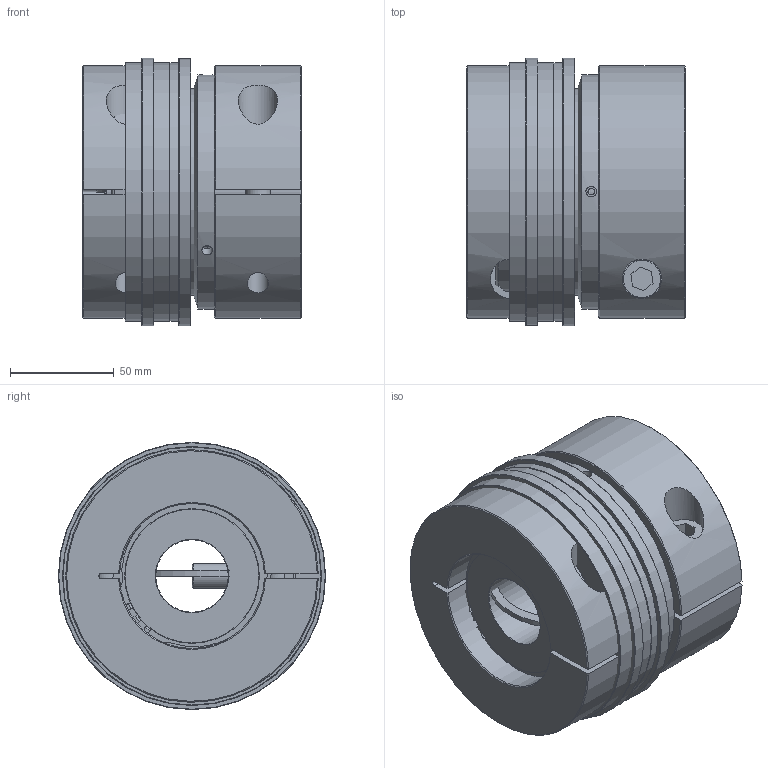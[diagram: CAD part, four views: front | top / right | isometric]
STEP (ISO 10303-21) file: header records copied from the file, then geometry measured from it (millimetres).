
FILE_DESCRIPTION( ( 'Unknown' ), '1' );
FILE_NAME( 'C:/Dokumente und Einstellungen/Sven/Desktop/hp kbk/KBK L-K-500.stp', 'Unknown', ( 'Unknown' ), ( 'Unknown' ), 'XStep 1.0', 'Unknown', ' ' );
FILE_SCHEMA( ( 'automotive_design' ) );
Length unit declared in the file: millimetre
Products named in the file (13): Assem1; Assem2; Assem3; ball_bearing_-_6013_0_01; ball_bearing_-_6013_0_02; ball_bearing_-_6013_0_03; Zylinderschraube DIN 912_3_0; Stellring 500; Druckring 500; a_65; KBK L-K-500 Grundkörper; Klemmnabe 500; Flansch 500
Bounding box: 105.7 x 129 x 129 mm (x, y, z)
Surface area: 432487.6 mm2
Topology: 24 solids, 24 shells, 320 faces, 672 edges, 436 vertices
Faces by surface type: cylinder 122, plane 116, cone 57, torus 25
Full cylindrical faces by diameter (mm): 3 x4, 3.242 x6, 5.1 x6, 5.2 x6, 6.647 x12, 10.106 x2, 12 x3, 12.5 x2, 18 x3, 19 x2, 35 x2, 62 x2, 65 x7, 70 x2, 76.3 x6, 86 x4, 89.1 x6, 91 x2, 100 x5, 104.5 x2, 113 x2, 114 x2, 125 x4, 129 x2
Entity records: 4296 total; most frequent: CARTESIAN_POINT 1088, DIRECTION 644, ORIENTED_EDGE 418, AXIS2_PLACEMENT_3D 297, EDGE_LOOP 264, EDGE_CURVE 209, FACE_OUTER_BOUND 195, VERTEX_POINT 177
